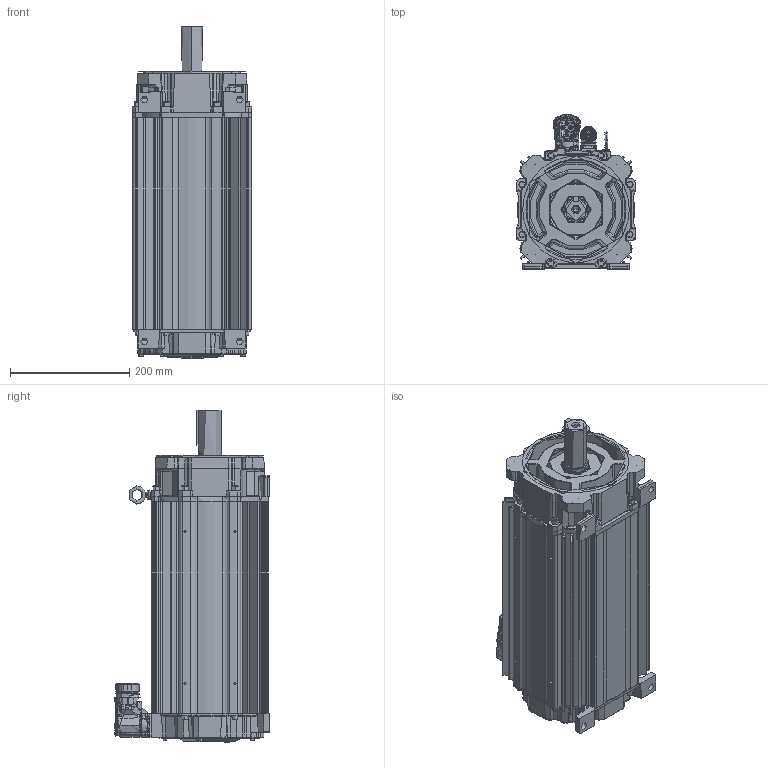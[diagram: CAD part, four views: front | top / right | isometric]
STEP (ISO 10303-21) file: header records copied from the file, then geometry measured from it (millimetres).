
FILE_DESCRIPTION((''),'2;1');
FILE_NAME('10001410891_ASM','2020-01-15T13:27:07',('VThimma'),('Rockwell Automation'),'CREO PARAMETRIC BY PTC INC, 2017380','CREO PARAMETRIC BY PTC INC, 2017380','');
FILE_SCHEMA(('CONFIG_CONTROL_DESIGN','SHAPE_APPEARANCE_LAYERS_GROUPS'));
Products named in the file (27): 10001371613; 10001238886_AF0; 10001298482_AF22; 10001284445_ASM; CH31X150; 10001406659_ASM; 10001336772; 10001398824_ASM; 10001257630_AF255; 10001300098_AF227; 10001284488_ASM; 10001586886; 10000172464; 0002-5005; 10000014325-2; 10000014331; 10000014332-460; 10000014330-460_ASM; PWR40CONN-BRK; PWR40BASE; 10000806125_ASM; 221404-Q12; 10000569218; 10001290343; 0011-2066; 10001609981; 10001410891_ASM
Assembly tree (54 placements, depth 4):
  10001410891_ASM
    10001406659_ASM
      10001371613
      10001284445_ASM
        10001238886_AF0
        10001298482_AF22
      CH31X150  x8
    10001398824_ASM
      10001336772
    10001284488_ASM
      10001257630_AF255
      10001300098_AF227
    10001586886  x8
    10000172464  x5
    0002-5005  x2
    10000014330-460_ASM
      10000014325-2
      10000014331
      10000014332-460
    10000806125_ASM
      PWR40CONN-BRK
      PWR40BASE
    221404-Q12  x10
    10000569218
    10001290343
    0011-2066
    10001609981
Bounding box: 200.45 x 260.05 x 557.79 mm (x, y, z)
Topology: 0 solids, 72 shells, 7493 faces, 19349 edges, 12019 vertices
Faces by surface type: cylinder 2215, plane 1783, bspline 1655, torus 934, cone 688, sphere 175, extrusion 42, revolution 1
Entity records: 380985 total; most frequent: CARTESIAN_POINT 149530, ORIENTED_EDGE 31651, DIRECTION 26576, PRESENTATION_STYLE_ASSIGNMENT 22017, STYLED_ITEM 22017, CURVE_STYLE 15937, EDGE_CURVE 15895, AXIS2_PLACEMENT_3D 10834
